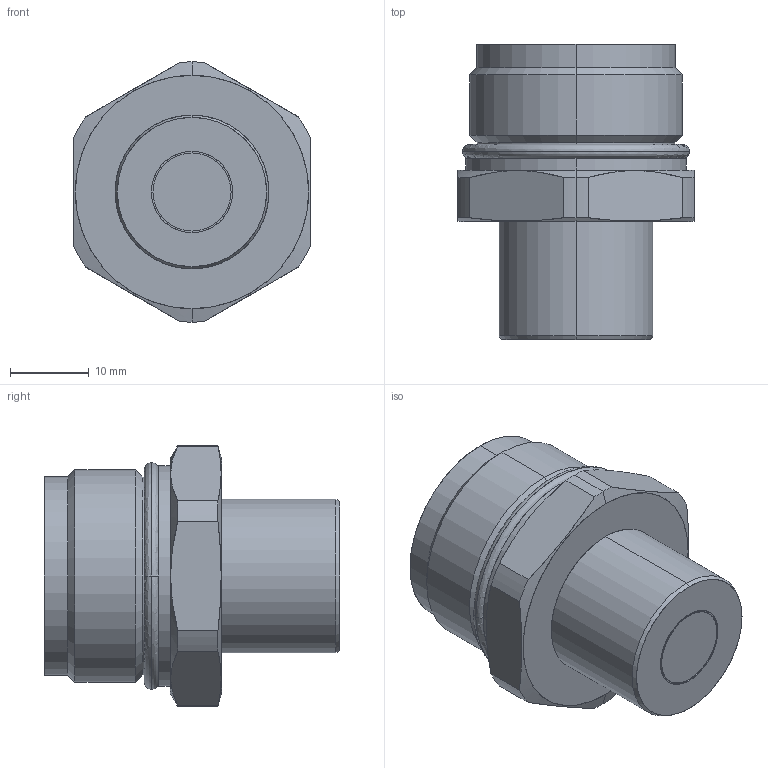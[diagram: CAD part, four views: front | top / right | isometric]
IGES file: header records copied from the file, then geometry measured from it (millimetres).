
Start section: SolidWorks IGES file using analytic representation for surfaces
Global section: file name: L:\電子カタログ-3D_IGES\JLP030-x-M0_rev1.igs; native system: SolidWorks 2009; preprocessor: SolidWorks 2009; author: D211; date: 100316.133418; units: millimetre
Bounding box: 30 x 37.5 x 33 mm (x, y, z)
Surface area: 6154.3 mm2 (no closed solid volume)
Topology: 0 solids, 0 shells, 66 faces, 1108 edges, 1108 vertices
Faces by surface type: revolution 39, bspline 27
